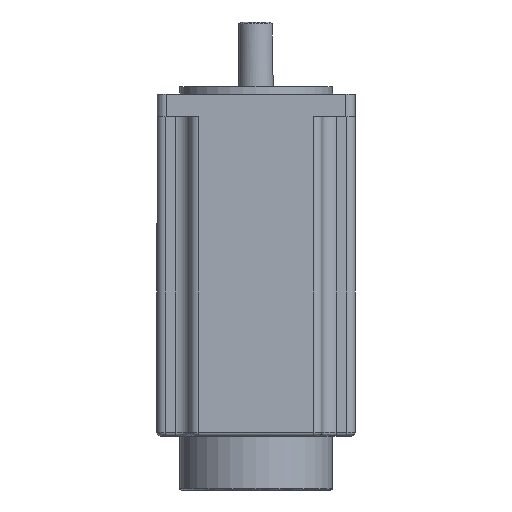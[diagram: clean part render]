
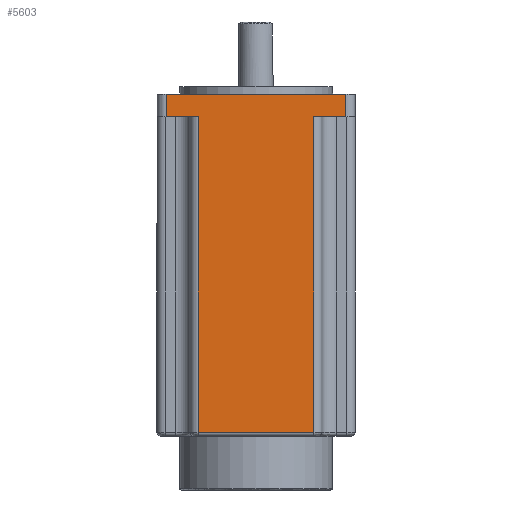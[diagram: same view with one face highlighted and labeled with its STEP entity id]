
A CAD part, front view. The second image highlights one B-rep face of the part: STEP entity #5603.
In plain terms, the highlighted planar face has unit normal (0, -1, 0).
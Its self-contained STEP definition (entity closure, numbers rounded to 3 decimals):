
#8 = CARTESIAN_POINT ( 'NONE',  ( 0., -55., -4. ) ) ;
#286 = VECTOR ( 'NONE', #5034, 1000. ) ;
#464 = ORIENTED_EDGE ( 'NONE', *, *, #4514, .F. ) ;
#640 = VERTEX_POINT ( 'NONE', #4744 ) ;
#769 = DIRECTION ( 'NONE',  ( -1., 0., 0. ) ) ;
#892 = DIRECTION ( 'NONE',  ( 0., 0., 1. ) ) ;
#1082 = LINE ( 'NONE', #5111, #286 ) ;
#1143 = CARTESIAN_POINT ( 'NONE',  ( 32.05, -55., -16.5 ) ) ;
#1198 = CARTESIAN_POINT ( 'NONE',  ( 0., -55., -16.5 ) ) ;
#1237 = LINE ( 'NONE', #1823, #3457 ) ;
#1287 = EDGE_CURVE ( 'NONE', #5182, #5856, #3262, .T. ) ;
#1682 = EDGE_CURVE ( 'NONE', #3554, #3085, #3041, .T. ) ;
#1687 = CARTESIAN_POINT ( 'NONE',  ( -50., -55., -98. ) ) ;
#1823 = CARTESIAN_POINT ( 'NONE',  ( -32.05, -55., -98. ) ) ;
#1881 = VECTOR ( 'NONE', #5765, 1000. ) ;
#2237 = LINE ( 'NONE', #1687, #1881 ) ;
#2252 = CARTESIAN_POINT ( 'NONE',  ( 0., -55., -192. ) ) ;
#2332 = DIRECTION ( 'NONE',  ( 0., 0., 1. ) ) ;
#2436 = ORIENTED_EDGE ( 'NONE', *, *, #3985, .F. ) ;
#2459 = VECTOR ( 'NONE', #5929, 1000. ) ;
#2482 = AXIS2_PLACEMENT_3D ( 'NONE', #5078, #5553, #892 ) ;
#2551 = CARTESIAN_POINT ( 'NONE',  ( 32.05, -55., -192. ) ) ;
#3035 = DIRECTION ( 'NONE',  ( -1., 0., 0. ) ) ;
#3041 = LINE ( 'NONE', #8, #2459 ) ;
#3085 = VERTEX_POINT ( 'NONE', #3909 ) ;
#3182 = ORIENTED_EDGE ( 'NONE', *, *, #3950, .F. ) ;
#3200 = EDGE_CURVE ( 'NONE', #4049, #4700, #5606, .T. ) ;
#3262 = LINE ( 'NONE', #1198, #5550 ) ;
#3457 = VECTOR ( 'NONE', #5897, 1000. ) ;
#3506 = FACE_OUTER_BOUND ( 'NONE', #5770, .T. ) ;
#3538 = ORIENTED_EDGE ( 'NONE', *, *, #3698, .T. ) ;
#3554 = VERTEX_POINT ( 'NONE', #5505 ) ;
#3574 = ORIENTED_EDGE ( 'NONE', *, *, #1682, .F. ) ;
#3580 = ORIENTED_EDGE ( 'NONE', *, *, #3877, .F. ) ;
#3671 = PLANE ( 'NONE',  #2482 ) ;
#3698 = EDGE_CURVE ( 'NONE', #640, #3085, #4777, .T. ) ;
#3785 = ORIENTED_EDGE ( 'NONE', *, *, #3200, .F. ) ;
#3819 = LINE ( 'NONE', #4353, #5877 ) ;
#3877 = EDGE_CURVE ( 'NONE', #640, #4760, #3819, .T. ) ;
#3909 = CARTESIAN_POINT ( 'NONE',  ( 50., -55., -4. ) ) ;
#3950 = EDGE_CURVE ( 'NONE', #5856, #3554, #2237, .T. ) ;
#3985 = EDGE_CURVE ( 'NONE', #4700, #5182, #1237, .T. ) ;
#4049 = VERTEX_POINT ( 'NONE', #2551 ) ;
#4353 = CARTESIAN_POINT ( 'NONE',  ( 0., -55., -16.5 ) ) ;
#4386 = VECTOR ( 'NONE', #4989, 1000. ) ;
#4495 = ORIENTED_EDGE ( 'NONE', *, *, #1287, .F. ) ;
#4514 = EDGE_CURVE ( 'NONE', #4760, #4049, #1082, .T. ) ;
#4700 = VERTEX_POINT ( 'NONE', #5915 ) ;
#4744 = CARTESIAN_POINT ( 'NONE',  ( 50., -55., -16.5 ) ) ;
#4760 = VERTEX_POINT ( 'NONE', #1143 ) ;
#4777 = LINE ( 'NONE', #5082, #5703 ) ;
#4823 = CARTESIAN_POINT ( 'NONE',  ( -50., -55., -16.5 ) ) ;
#4989 = DIRECTION ( 'NONE',  ( -1., 0., 0. ) ) ;
#5034 = DIRECTION ( 'NONE',  ( 0., 0., -1. ) ) ;
#5078 = CARTESIAN_POINT ( 'NONE',  ( -50., -55., -192. ) ) ;
#5082 = CARTESIAN_POINT ( 'NONE',  ( 50., -55., -10.25 ) ) ;
#5104 = CARTESIAN_POINT ( 'NONE',  ( -32.05, -55., -16.5 ) ) ;
#5111 = CARTESIAN_POINT ( 'NONE',  ( 32.05, -55., -98. ) ) ;
#5182 = VERTEX_POINT ( 'NONE', #5104 ) ;
#5505 = CARTESIAN_POINT ( 'NONE',  ( -50., -55., -4. ) ) ;
#5550 = VECTOR ( 'NONE', #3035, 1000. ) ;
#5553 = DIRECTION ( 'NONE',  ( 0., 1., 0. ) ) ;
#5603 = ADVANCED_FACE ( 'NONE', ( #3506 ), #3671, .F. ) ;
#5606 = LINE ( 'NONE', #2252, #4386 ) ;
#5703 = VECTOR ( 'NONE', #2332, 1000. ) ;
#5765 = DIRECTION ( 'NONE',  ( 0., 0., 1. ) ) ;
#5770 = EDGE_LOOP ( 'NONE', ( #3785, #464, #3580, #3538, #3574, #3182, #4495, #2436 ) ) ;
#5856 = VERTEX_POINT ( 'NONE', #4823 ) ;
#5877 = VECTOR ( 'NONE', #769, 1000. ) ;
#5897 = DIRECTION ( 'NONE',  ( 0., 0., 1. ) ) ;
#5915 = CARTESIAN_POINT ( 'NONE',  ( -32.05, -55., -192. ) ) ;
#5929 = DIRECTION ( 'NONE',  ( 1., 0., 0. ) ) ;
